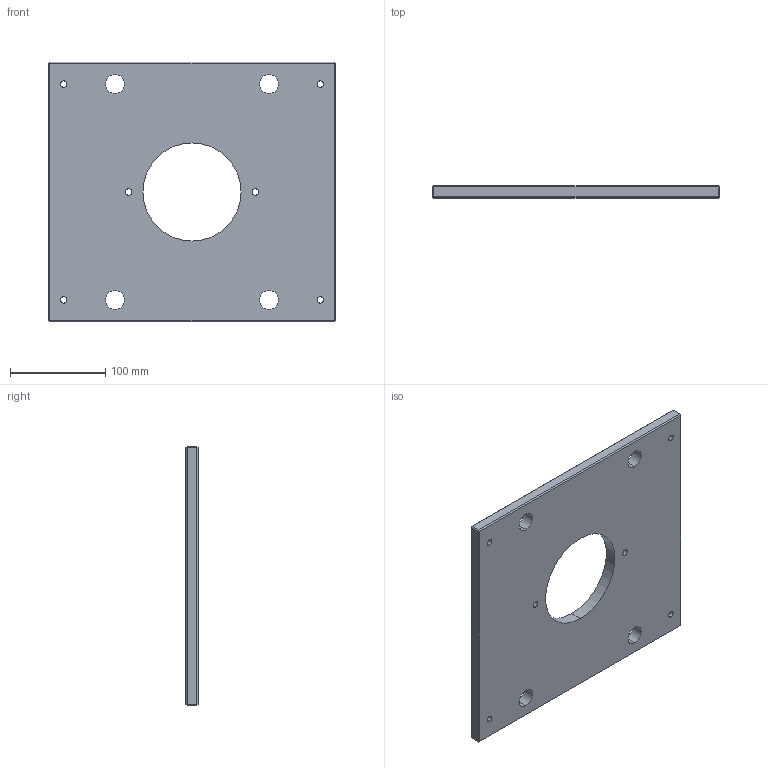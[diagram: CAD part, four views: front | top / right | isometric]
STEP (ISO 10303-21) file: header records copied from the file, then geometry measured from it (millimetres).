
FILE_DESCRIPTION (( 'STEP AP214' ), '1' );
FILE_NAME ('ME-0619-CH-1112.STEP', '2020-02-12T09:00:04', ( '' ), ( '' ), 'SwSTEP 2.0', 'SolidWorks 2018', '' );
FILE_SCHEMA (( 'AUTOMOTIVE_DESIGN' ));
Length unit declared in the file: inch
Products named in the file (1): ME-0619-CH-1112
Bounding box: 301.62 x 12.7 x 273.05 mm (x, y, z)
Volume: 918134.7 mm3; surface area: 166691 mm2
Topology: 1 solids, 1 shells, 60 faces, 138 edges, 80 vertices
Faces by surface type: plane 26, cylinder 22, cone 12
Entity records: 1754 total; most frequent: DIRECTION 316, CARTESIAN_POINT 279, ORIENTED_EDGE 276, EDGE_CURVE 138, AXIS2_PLACEMENT_3D 117, EDGE_LOOP 82, VECTOR 82, LINE 82
